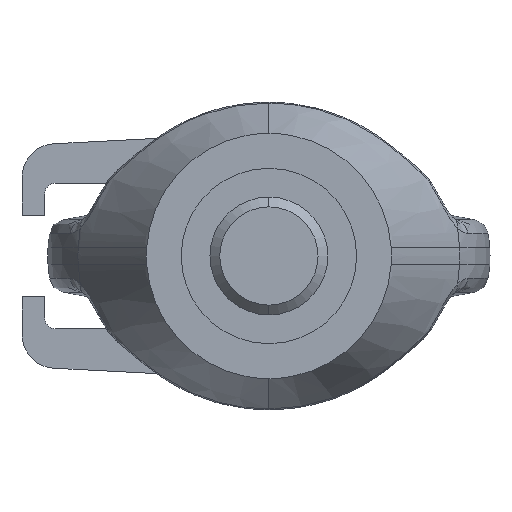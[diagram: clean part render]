
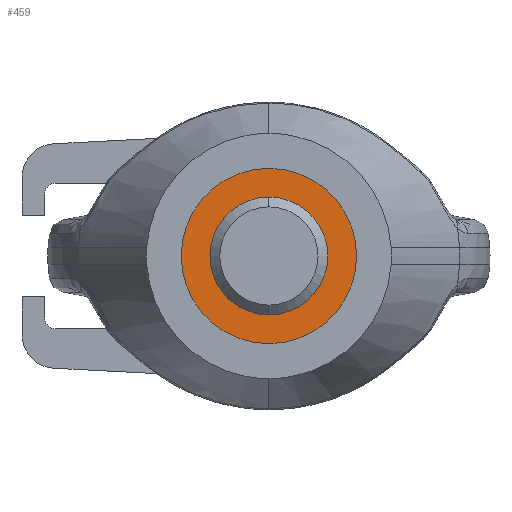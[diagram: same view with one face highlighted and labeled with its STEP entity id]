
A CAD part, front view. The second image highlights one B-rep face of the part: STEP entity #459.
In plain terms, the highlighted planar face has unit normal (0, -1, 0).
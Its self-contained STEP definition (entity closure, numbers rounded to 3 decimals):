
#459=ADVANCED_FACE('',(#1292,#1293),#1294,.T.);
#1292=FACE_OUTER_BOUND('',#2531,.T.);
#1293=FACE_BOUND('',#2532,.T.);
#1294=PLANE('',#2533);
#2531=EDGE_LOOP('',(#18548,#18549));
#2532=EDGE_LOOP('',(#18550,#18551));
#2533=AXIS2_PLACEMENT_3D('',#18552,#18553,#18554);
#18548=ORIENTED_EDGE('',*,*,#21608,.T.);
#18549=ORIENTED_EDGE('',*,*,#21621,.T.);
#18550=ORIENTED_EDGE('',*,*,#21597,.F.);
#18551=ORIENTED_EDGE('',*,*,#21623,.F.);
#18552=CARTESIAN_POINT('',(24.274,-77.5,0.0));
#18553=DIRECTION('',(0.0,-1.0,0.0));
#18554=DIRECTION('',(0.0,0.0,-1.0));
#21597=EDGE_CURVE('',#23038,#23041,#23042,.T.);
#21608=EDGE_CURVE('',#23054,#23058,#23060,.T.);
#21621=EDGE_CURVE('',#23058,#23054,#23077,.T.);
#21623=EDGE_CURVE('',#23041,#23038,#23079,.T.);
#23038=VERTEX_POINT('',#25148);
#23041=VERTEX_POINT('',#25152);
#23042=CIRCLE('',#25153,21.0);
#23054=VERTEX_POINT('',#25168);
#23058=VERTEX_POINT('',#25173);
#23060=CIRCLE('',#25176,31.25);
#23077=CIRCLE('',#25195,31.25);
#23079=CIRCLE('',#25197,21.0);
#25148=CARTESIAN_POINT('',(0.,-77.5,-21.0));
#25152=CARTESIAN_POINT('',(0.,-77.5,21.0));
#25153=AXIS2_PLACEMENT_3D('',#43279,#43280,#43281);
#25168=CARTESIAN_POINT('',(0.,-77.5,-31.25));
#25173=CARTESIAN_POINT('',(0.,-77.5,31.25));
#25176=AXIS2_PLACEMENT_3D('',#43296,#43297,#43298);
#25195=AXIS2_PLACEMENT_3D('',#43316,#43317,#43318);
#25197=AXIS2_PLACEMENT_3D('',#43319,#43320,#43321);
#43279=CARTESIAN_POINT('',(0.,-77.5,0.0));
#43280=DIRECTION('',(0.0,-1.0,0.0));
#43281=DIRECTION('',(0.0,0.0,-1.0));
#43296=CARTESIAN_POINT('',(0.,-77.5,0.0));
#43297=DIRECTION('',(0.0,-1.0,0.0));
#43298=DIRECTION('',(0.0,0.0,-1.0));
#43316=CARTESIAN_POINT('',(0.,-77.5,0.0));
#43317=DIRECTION('',(0.0,-1.0,0.0));
#43318=DIRECTION('',(0.0,0.0,-1.0));
#43319=CARTESIAN_POINT('',(0.,-77.5,0.0));
#43320=DIRECTION('',(0.0,-1.0,0.0));
#43321=DIRECTION('',(0.0,0.0,-1.0));
